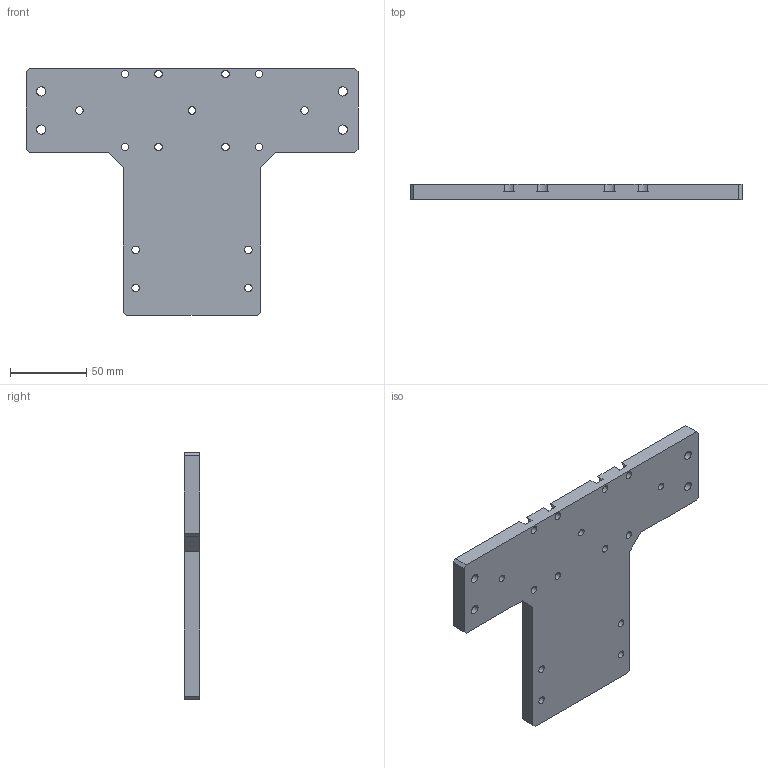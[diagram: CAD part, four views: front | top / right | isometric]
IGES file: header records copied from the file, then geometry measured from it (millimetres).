
Start section:  PTC IGES file: k60-k60m-ft.igs
Global section: file name: k60-k60m-ft.igs; native system: Pro/ENGINEER by Parametric Technology Corporation; preprocessor: 2008230; author: Owner; organization: Unknown; date: 20121212.104941; units: millimetre
Bounding box: 218 x 10 x 162 mm (x, y, z)
Surface area: 54008.5 mm2 (no closed solid volume)
Topology: 0 solids, 0 shells, 97 faces, 504 edges, 504 vertices
Faces by surface type: revolution 64, bspline 33
